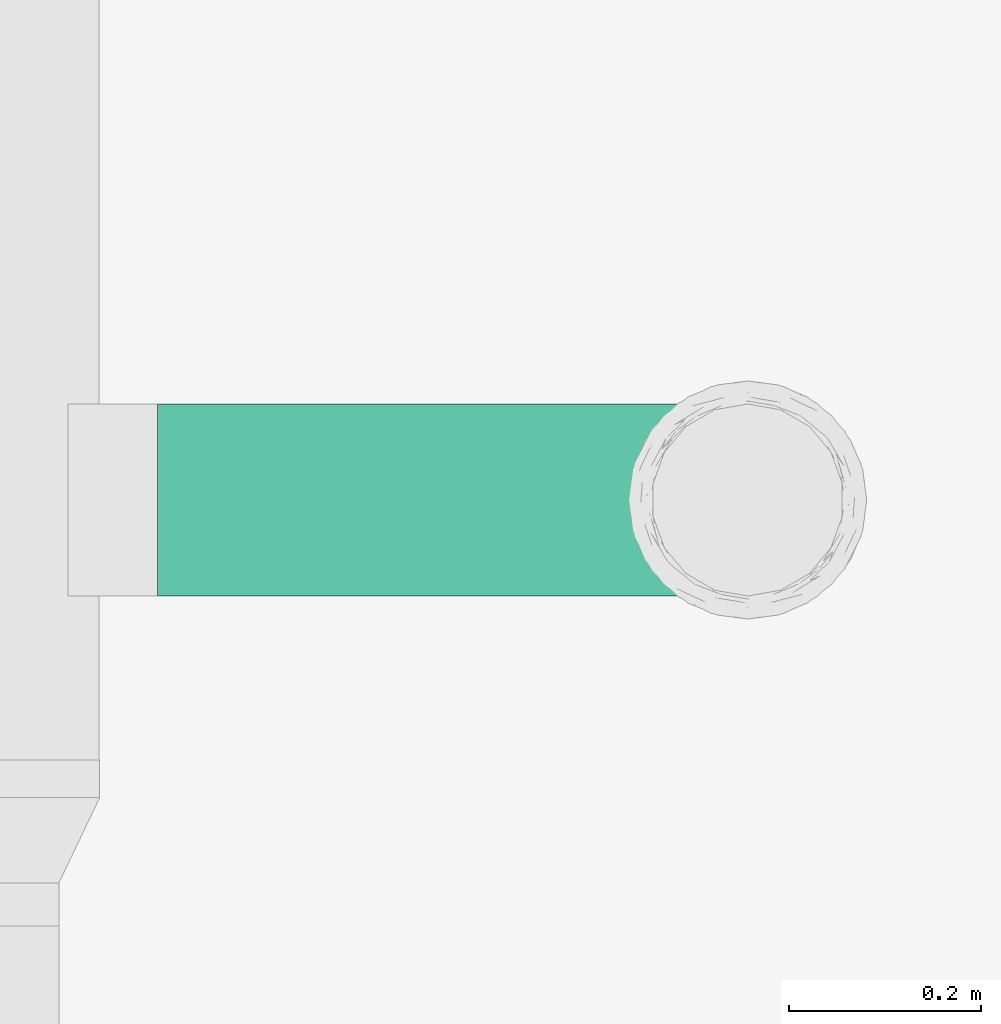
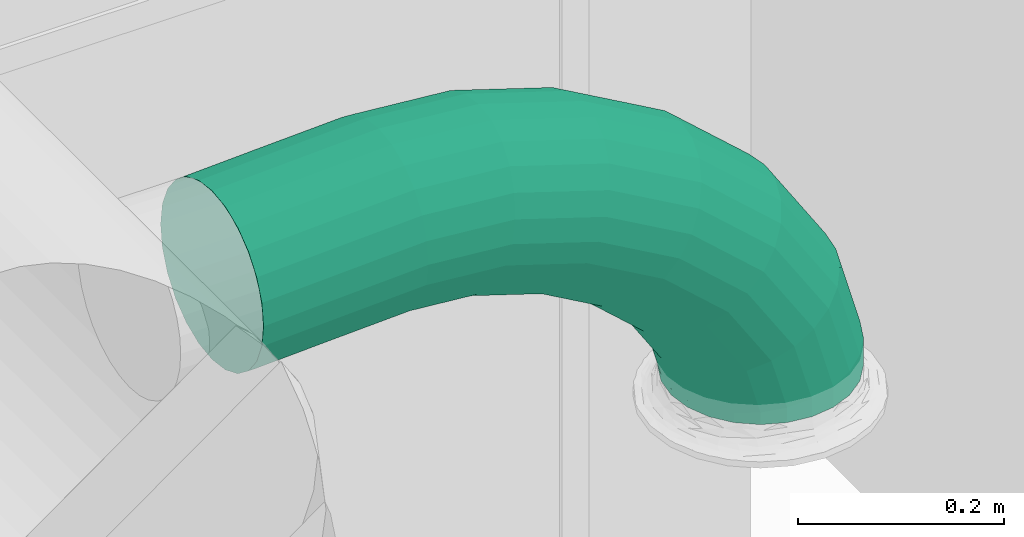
# One storey, part 23 of 31: 1 flow segment.
"""IFC2X3 building model written with IfcOpenShell, lengths in millimetres."""

from ifc_helpers import new_model, entity, si_unit, converted_unit, derived_unit, direction, frame, origin, place, context, subcontext, project, spatial, faceted_brep, type_object, element, save


model = new_model("IFC2X3")

# Units and contexts
model_context = context("Model", 3, precision=0.01, world=origin(), true_north=direction((6.123031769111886e-17, 1.0)))
body_context = subcontext(model_context, "Body", "Model", "MODEL_VIEW")
ifc_project = project(units=[si_unit("LENGTHUNIT", "METRE", prefix="MILLI"), si_unit("AREAUNIT", "SQUARE_METRE"), si_unit("VOLUMEUNIT", "CUBIC_METRE"), converted_unit("PLANEANGLEUNIT", "DEGREE", entity("IfcRatioMeasure", 0.017453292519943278), si_unit("PLANEANGLEUNIT", "RADIAN"), dimensions=[0, 0, 0, 0, 0, 0, 0]), si_unit("MASSUNIT", "GRAM", prefix="KILO"), derived_unit("MASSDENSITYUNIT", [(si_unit("MASSUNIT", "GRAM", prefix="KILO"), 1), (si_unit("LENGTHUNIT", "METRE"), -3)]), derived_unit("MOMENTOFINERTIAUNIT", [(si_unit("LENGTHUNIT", "METRE"), 4)]), si_unit("TIMEUNIT", "SECOND"), si_unit("FREQUENCYUNIT", "HERTZ"), si_unit("THERMODYNAMICTEMPERATUREUNIT", "DEGREE_CELSIUS"), derived_unit("THERMALTRANSMITTANCEUNIT", [(si_unit("MASSUNIT", "GRAM", prefix="KILO"), 1), (si_unit("THERMODYNAMICTEMPERATUREUNIT", "KELVIN"), -1), (si_unit("TIMEUNIT", "SECOND"), -3)]), derived_unit("VOLUMETRICFLOWRATEUNIT", [(si_unit("LENGTHUNIT", "METRE"), 3), (si_unit("TIMEUNIT", "SECOND"), -1)]), derived_unit("MASSFLOWRATEUNIT", [(si_unit("MASSUNIT", "GRAM", prefix="KILO"), 1), (si_unit("TIMEUNIT", "SECOND"), -1)]), derived_unit("ROTATIONALFREQUENCYUNIT", [(si_unit("TIMEUNIT", "SECOND"), -1)]), si_unit("ELECTRICCURRENTUNIT", "AMPERE"), si_unit("ELECTRICVOLTAGEUNIT", "VOLT"), si_unit("POWERUNIT", "WATT"), si_unit("FORCEUNIT", "NEWTON", prefix="KILO"), si_unit("ILLUMINANCEUNIT", "LUX"), si_unit("LUMINOUSFLUXUNIT", "LUMEN"), si_unit("LUMINOUSINTENSITYUNIT", "CANDELA"), derived_unit("USERDEFINED", [(si_unit("MASSUNIT", "GRAM", prefix="KILO"), -1), (si_unit("LENGTHUNIT", "METRE"), -2), (si_unit("TIMEUNIT", "SECOND"), 3), (si_unit("LUMINOUSFLUXUNIT", "LUMEN"), 1)]), derived_unit("SOUNDPOWERUNIT", [(si_unit("MASSUNIT", "GRAM", prefix="KILO"), 1), (si_unit("LENGTHUNIT", "METRE"), 2), (si_unit("TIMEUNIT", "SECOND"), -3)]), derived_unit("SOUNDPRESSUREUNIT", [(si_unit("MASSUNIT", "GRAM", prefix="KILO"), 1), (si_unit("LENGTHUNIT", "METRE"), -1), (si_unit("TIMEUNIT", "SECOND"), -2)]), derived_unit("LINEARVELOCITYUNIT", [(si_unit("LENGTHUNIT", "METRE"), 1), (si_unit("TIMEUNIT", "SECOND"), -1)]), si_unit("PRESSUREUNIT", "PASCAL"), derived_unit("USERDEFINED", [(si_unit("LENGTHUNIT", "METRE"), -2), (si_unit("MASSUNIT", "GRAM", prefix="KILO"), 1), (si_unit("TIMEUNIT", "SECOND"), -2)]), derived_unit("LINEARFORCEUNIT", [(si_unit("MASSUNIT", "GRAM", prefix="KILO"), 1), (si_unit("LENGTHUNIT", "METRE"), 1), (si_unit("TIMEUNIT", "SECOND"), -2), (si_unit("LENGTHUNIT", "METRE"), -1)]), derived_unit("PLANARFORCEUNIT", [(si_unit("MASSUNIT", "GRAM", prefix="KILO"), 1), (si_unit("LENGTHUNIT", "METRE"), 1), (si_unit("TIMEUNIT", "SECOND"), -2), (si_unit("LENGTHUNIT", "METRE"), -2)])], contexts=[model_context])

# Site, building, storey
site_placement = place(None, origin())
site = spatial("IfcSite", under=ifc_project, at=site_placement, Name="Default", CompositionType="ELEMENT")
building_placement = place(site_placement, origin())
building = spatial("IfcBuilding", under=site, at=building_placement, CompositionType="ELEMENT")
storey_placement = place(building_placement, frame((0.0, 0.0, 3880.0)))
storey = spatial("IfcBuildingStorey", under=building, at=storey_placement, Name="Niveau 1", CompositionType="ELEMENT", Elevation=3880.0)

# Flow segment
duct_segment_type = type_object("IfcDuctSegmentType", Name="Gaine flexible circulaire:Souple - Circulaire piquage Aldes", PredefinedType="FLEXIBLESEGMENT")
flow_segment_placement = place(storey_placement, frame((-1935.0, -16121.595272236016, 2827.5000000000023)))
element("IfcFlowSegment", 1, at=flow_segment_placement, inside=storey, type_object=duct_segment_type, Name="Gaine flexible circulaire:Souple - Circulaire piquage Aldes", ObjectType="Gaine flexible circulaire:Souple - Circulaire piquage Aldes", context=body_context, shape_type="Brep", body=[
    faceted_brep([(518.4074173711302, 75.7133677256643, 0.0), (515.0, 101.595272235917, 0.0), (518.40741737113, 127.47717674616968, 0.0), (528.3974596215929, 151.59527223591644, 0.0), (544.2893218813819, 172.3059503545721, 0.0), (565.0, 188.19781261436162, 0.0), (589.1180954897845, 198.1878548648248, 0.0), (615.0, 201.5952722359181, 0.0), (640.8819045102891, 198.1878548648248, 0.0), (665.0, 188.19781261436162, 0.0), (685.7106781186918, 172.3059503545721, 0.0), (701.6025403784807, 151.59527223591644, 0.0), (711.5925826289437, 127.47717674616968, 0.0), (715.0, 101.595272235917, 0.0), (711.5925826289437, 75.7133677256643, 0.0), (701.6025403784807, 51.59527223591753, 0.0), (685.7106781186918, 30.884594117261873, 0.0), (665.0, 14.992731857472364, 0.0), (640.8819045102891, 5.002689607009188, 0.0), (615.0, 1.5952722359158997, 0.0), (589.1180954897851, 5.002689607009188, 0.0), (565.0, 14.992731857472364, 0.0), (544.2893218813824, 30.884594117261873, 0.0), (528.3974596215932, 51.59527223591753, 0.0), (715.0, 101.595272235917, 35.193251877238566), (711.5925826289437, 75.7133677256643, 34.71788220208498), (701.6025403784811, 51.59527223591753, 33.3241688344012), (685.7106781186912, 30.884594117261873, 31.10709103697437), (665.0, 14.992731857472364, 28.217738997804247), (640.8819045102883, 5.002689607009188, 24.85301728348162), (615.0, 1.5952722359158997, 21.242226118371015), (589.1180954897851, 5.002689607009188, 17.631434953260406), (565.0, 14.992731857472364, 14.266713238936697), (544.2893218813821, 30.884594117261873, 11.377361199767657), (518.4074173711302, 75.7133677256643, 7.76657003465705), (515.0, 101.595272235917, 7.291200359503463), (528.3974596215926, 51.59527223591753, 9.160283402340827), (528.3974596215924, 151.59527223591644, 9.160283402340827), (544.2893218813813, 172.30595035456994, 11.377361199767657), (518.40741737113, 127.47717674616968, 7.76657003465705), (589.118095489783, 198.1878548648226, 17.631434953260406), (615.0, 201.5952722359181, 21.242226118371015), (565.0, 188.19781261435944, 14.266713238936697), (640.881904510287, 198.1878548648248, 24.85301728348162), (665.0, 188.19781261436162, 28.217738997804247), (685.7106781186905, 172.3059503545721, 31.10709103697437), (701.6025403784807, 151.59527223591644, 33.3241688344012), (711.5925826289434, 127.47717674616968, 34.71788220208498), (0.0, 188.19781261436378, 272.4999999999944), (0.0, 172.30595035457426, 251.7893218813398), (0.0, 151.59527223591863, 235.89745962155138), (0.0, 127.47717674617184, 225.90741737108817), (0.0, 101.59527223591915, 222.49999999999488), (0.0, 75.71336772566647, 225.90741737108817), (0.0, 51.595272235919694, 235.89745962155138), (0.0, 30.88459411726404, 251.7893218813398), (0.0, 14.992731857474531, 272.4999999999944), (0.0, 5.002689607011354, 296.6180954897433), (0.0, 1.5952722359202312, 322.4999999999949), (0.0, 5.002689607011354, 348.3819045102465), (0.0, 14.992731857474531, 372.4999999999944), (0.0, 30.88459411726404, 393.21067811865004), (0.0, 51.595272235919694, 409.10254037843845), (0.0, 75.71336772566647, 419.0925826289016), (0.0, 101.59527223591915, 422.4999999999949), (0.0, 127.47717674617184, 419.0925826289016), (0.0, 151.59527223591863, 409.10254037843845), (0.0, 172.30595035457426, 393.21067811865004), (0.0, 188.19781261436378, 372.49999999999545), (0.0, 198.18785486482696, 348.3819045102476), (0.0, 201.5952722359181, 322.4999999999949), (0.0, 198.18785486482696, 296.61809548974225), (687.5250389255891, 101.595272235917, 131.74605486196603), (684.3872886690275, 75.7133677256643, 130.32301811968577), (675.1878703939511, 51.59527223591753, 126.15088549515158), (660.5537092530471, 30.884594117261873, 119.51398093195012), (641.4820991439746, 14.992731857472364, 110.8645985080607), (619.2727387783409, 5.002689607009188, 100.79217934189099), (595.4391593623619, 1.5952722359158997, 89.98314215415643), (571.605579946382, 5.002689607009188, 79.17410496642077), (549.396219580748, 14.992731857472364, 69.10168580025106), (530.3246094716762, 30.884594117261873, 60.45230337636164), (515.6904483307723, 51.59527223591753, 53.81539881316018), (506.49103005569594, 75.7133677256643, 49.643266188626), (503.3532797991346, 101.595272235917, 48.22022944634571), (506.49103005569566, 127.47717674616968, 49.643266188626), (515.690448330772, 151.59527223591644, 53.81539881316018), (530.3246094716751, 172.3059503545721, 60.45230337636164), (571.6055799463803, 198.1878548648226, 79.17410496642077), (595.4391593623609, 201.5952722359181, 89.98314215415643), (549.3962195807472, 188.19781261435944, 69.10168580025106), (619.2727387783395, 198.1878548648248, 100.79217934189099), (641.482099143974, 188.19781261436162, 110.8645985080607), (660.5537092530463, 172.3059503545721, 119.51398093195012), (675.1878703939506, 151.59527223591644, 126.15088549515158), (684.3872886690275, 127.47717674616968, 130.32301811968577), (619.5778806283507, 101.595272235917, 236.7504979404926), (616.9645695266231, 75.7133677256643, 234.5170013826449), (609.3027290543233, 51.59527223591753, 227.96872080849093), (597.1145009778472, 30.884594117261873, 217.5519107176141), (581.2304928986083, 14.992731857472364, 203.97645950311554), (562.7331737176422, 5.002689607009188, 188.16751173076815), (542.8831051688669, 1.5952722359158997, 171.20242106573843), (523.0330366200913, 5.002689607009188, 154.23733040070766), (504.5357174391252, 14.992731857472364, 138.42838262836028), (488.6517093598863, 30.884594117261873, 124.8529314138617), (476.46348128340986, 51.59527223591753, 114.43612132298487), (468.80164081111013, 75.7133677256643, 107.8878407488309), (466.1883297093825, 101.595272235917, 105.65434419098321), (468.80164081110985, 127.47717674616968, 107.8878407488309), (476.46348128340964, 151.59527223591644, 114.43612132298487), (488.65170935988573, 172.3059503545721, 124.8529314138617), (523.0330366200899, 198.1878548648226, 154.23733040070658), (542.8831051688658, 201.5952722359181, 171.20242106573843), (504.5357174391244, 188.19781261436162, 138.42838262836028), (562.7331737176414, 198.1878548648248, 188.16751173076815), (581.2304928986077, 188.19781261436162, 203.97645950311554), (597.114500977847, 172.3059503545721, 217.55191071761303), (609.3027290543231, 151.59527223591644, 227.96872080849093), (616.9645695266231, 127.47717674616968, 234.5170013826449), (525.246890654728, 101.595272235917, 321.29368666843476), (523.2458728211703, 75.7133677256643, 318.51142850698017), (517.3791853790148, 51.59527223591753, 310.3542603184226), (508.04663338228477, 30.884594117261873, 297.378079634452), (495.8842148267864, 14.992731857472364, 280.46719172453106), (481.72077843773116, 5.002689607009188, 260.77404565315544), (466.52153899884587, 1.5952722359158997, 239.6406967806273), (451.3222995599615, 5.002689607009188, 218.50734790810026), (437.15886317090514, 14.992731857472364, 198.81420183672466), (424.99644461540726, 30.884594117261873, 181.90331392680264), (415.6638926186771, 51.59527223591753, 168.92713324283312), (409.7972051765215, 75.7133677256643, 160.7699650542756), (407.79618734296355, 101.595272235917, 157.98770689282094), (409.79720517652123, 127.47717674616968, 160.7699650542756), (415.6638926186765, 151.59527223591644, 168.92713324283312), (424.99644461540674, 172.3059503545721, 181.90331392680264), (451.32229955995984, 198.1878548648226, 218.5073479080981), (466.5215389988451, 201.5952722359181, 239.6406967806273), (437.1588631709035, 188.19781261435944, 198.8142018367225), (481.7207784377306, 198.1878548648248, 260.77404565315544), (495.88421482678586, 188.19781261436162, 280.4671917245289), (508.04663338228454, 172.3059503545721, 297.378079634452), (517.3791853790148, 151.59527223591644, 310.3542603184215), (523.24587282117, 127.47717674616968, 318.51142850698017), (415.88363742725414, 101.595272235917, 383.36992042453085), (414.5091031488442, 75.7133677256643, 380.2320607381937), (410.4791725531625, 51.59527223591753, 371.03232163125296), (404.06847875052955, 30.884594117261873, 356.39765012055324), (395.71389992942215, 14.992731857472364, 337.3253748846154), (385.98478682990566, 5.002689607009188, 315.1152399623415), (375.54416243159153, 1.5952722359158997, 291.2808293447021), (365.10353803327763, 5.002689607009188, 267.44641872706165), (355.3744249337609, 14.992731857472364, 245.23628380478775), (347.0198461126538, 30.884594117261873, 226.1640085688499), (340.6091523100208, 51.59527223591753, 211.52933705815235), (336.5792217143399, 75.7133677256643, 202.32959795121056), (335.2046874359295, 101.595272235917, 199.19173826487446), (336.57922171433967, 127.47717674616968, 202.32959795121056), (340.6091523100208, 151.59527223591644, 211.52933705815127), (347.0198461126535, 172.30595035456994, 226.1640085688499), (365.1035380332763, 198.1878548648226, 267.4464187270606), (375.54416243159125, 201.5952722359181, 291.2808293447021), (355.37442493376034, 188.19781261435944, 245.23628380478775), (385.98478682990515, 198.1878548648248, 315.1152399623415), (395.71389992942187, 188.19781261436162, 337.32537488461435), (404.06847875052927, 172.3059503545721, 356.39765012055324), (410.4791725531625, 151.59527223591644, 371.0323216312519), (414.5091031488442, 127.47717674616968, 380.2320607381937), (299.134859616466, 101.595272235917, 420.70014231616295), (298.4535743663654, 75.7133677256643, 417.3406174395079), (296.4561470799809, 51.59527223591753, 407.4909888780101), (293.2786991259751, 30.884594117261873, 391.82249254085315), (289.1377683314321, 14.992731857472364, 371.4029105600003), (284.31555228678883, 5.002689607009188, 347.6238037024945), (279.14067704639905, 1.5952722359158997, 322.1056788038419), (273.9658018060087, 5.002689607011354, 296.58755390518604), (269.1435857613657, 14.992731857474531, 272.8084470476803), (265.002654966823, 30.884594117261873, 252.38886506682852), (261.8252070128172, 51.59527223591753, 236.72036872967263), (259.82777972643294, 75.7133677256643, 226.87074016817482), (259.1464944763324, 101.595272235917, 223.5112152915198), (259.82777972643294, 127.47717674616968, 226.87074016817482), (261.8252070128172, 151.59527223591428, 236.72036872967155), (265.0026549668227, 172.30595035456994, 252.38886506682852), (273.9658018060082, 198.1878548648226, 296.5875539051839), (279.1406770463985, 201.5952722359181, 322.10567880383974), (269.14358576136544, 188.19781261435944, 272.80844704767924), (284.31555228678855, 198.1878548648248, 347.62380370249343), (289.1377683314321, 188.19781261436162, 371.4029105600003), (293.2786991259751, 172.30595035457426, 391.82249254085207), (296.4561470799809, 151.59527223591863, 407.4909888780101), (298.45357436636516, 127.47717674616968, 417.3406174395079), (187.10028923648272, 101.595272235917, 430.8877292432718), (187.02026932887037, 75.7133677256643, 427.4735297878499), (186.785662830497, 51.59527223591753, 417.46360347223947), (186.41245778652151, 30.884594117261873, 401.5401102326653), (185.92608750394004, 14.992731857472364, 380.78820981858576), (185.3596973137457, 5.002689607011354, 356.6221099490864), (184.7518857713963, 1.5952722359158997, 330.6886903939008), (184.1440742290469, 5.002689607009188, 304.7552708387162), (183.57768403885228, 14.992731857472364, 280.5891709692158), (183.09131375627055, 30.884594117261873, 259.8372705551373), (182.7181087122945, 51.59527223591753, 243.9137773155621), (182.4835022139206, 75.7133677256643, 233.90385099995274), (182.40348230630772, 101.595272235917, 230.48965154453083), (182.48350221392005, 127.47717674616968, 233.90385099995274), (182.71810871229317, 151.59527223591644, 243.9137773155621), (183.0913137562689, 172.3059503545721, 259.83727055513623), (184.14407422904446, 198.1878548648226, 304.75527083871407), (184.75188577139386, 201.5952722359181, 330.6886903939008), (183.57768403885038, 188.19781261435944, 280.5891709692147), (185.35969731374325, 198.1878548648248, 356.62210994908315), (185.92608750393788, 188.19781261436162, 380.7882098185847), (186.4124577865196, 172.3059503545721, 401.54011023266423), (186.78566283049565, 151.59527223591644, 417.46360347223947), (187.02026932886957, 127.47717674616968, 427.4735297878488), (87.82735397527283, 101.595272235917, 426.5351066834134), (87.98210633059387, 75.7133677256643, 423.13120081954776), (88.43581727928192, 51.59527223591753, 413.15145378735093), (89.15756716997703, 30.884594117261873, 397.2759688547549), (90.09816994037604, 14.992731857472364, 376.5866340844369), (91.19352506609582, 5.002689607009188, 352.49339345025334), (92.36898590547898, 1.5952722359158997, 326.6381614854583), (93.54444674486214, 5.002689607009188, 300.78292952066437), (94.63980187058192, 14.992731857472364, 276.68968888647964), (95.58040464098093, 30.884594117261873, 256.0003541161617), (96.30215453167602, 51.59527223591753, 240.1248691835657), (96.7558654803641, 75.7133677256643, 230.14512215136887), (96.91061783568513, 101.59527223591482, 226.7412162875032), (96.7558654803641, 127.47717674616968, 230.14512215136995), (96.30215453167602, 151.59527223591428, 240.12486918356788), (95.58040464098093, 172.30595035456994, 256.00035411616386), (93.54444674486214, 198.18785486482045, 300.78292952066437), (92.36898590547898, 201.59527223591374, 326.6381614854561), (94.63980187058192, 188.19781261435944, 276.6896888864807), (91.19352506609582, 198.1878548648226, 352.4933934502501), (90.09816994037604, 188.19781261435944, 376.5866340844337), (89.15756716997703, 172.3059503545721, 397.2759688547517), (88.43581727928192, 151.59527223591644, 413.15145378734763), (87.98210633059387, 127.47717674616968, 423.1312008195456), (2.202937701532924, 75.71336772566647, 419.0925826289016), (2.437980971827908, 51.595272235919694, 409.1025403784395), (2.1227688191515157, 101.59527223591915, 422.4999999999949), (2.811880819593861, 30.88459411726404, 393.21067811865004), (3.866601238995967, 5.002689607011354, 348.3819045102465), (4.475544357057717, 1.5952722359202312, 322.49999999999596), (3.29915658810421, 14.992731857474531, 372.4999999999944), (5.084487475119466, 5.002689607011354, 296.6180954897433), (5.651932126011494, 14.992731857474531, 272.4999999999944), (6.139207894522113, 30.88459411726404, 251.7893218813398), (6.513107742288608, 51.595272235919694, 235.89745962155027), (6.748151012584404, 75.71336772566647, 225.90741737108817), (6.828319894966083, 101.59527223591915, 222.49999999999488), (6.7481510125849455, 127.47717674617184, 225.90741737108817), (6.513107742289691, 151.59527223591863, 235.89745962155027), (6.139207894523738, 172.30595035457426, 251.7893218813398), (5.6519321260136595, 188.19781261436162, 272.4999999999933), (5.084487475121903, 198.1878548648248, 296.6180954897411), (4.475544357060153, 201.5952722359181, 322.4999999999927), (3.8666012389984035, 198.18785486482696, 348.3819045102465), (3.2991565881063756, 188.19781261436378, 372.4999999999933), (2.8118808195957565, 172.30595035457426, 393.21067811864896), (2.4379809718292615, 151.59527223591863, 409.10254037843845), (2.2029377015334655, 127.47717674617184, 419.0925826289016)], [[[0, 1, 2, 3, 4, 5, 6, 7, 8, 9, 10, 11, 12, 13, 14, 15, 16, 17, 18, 19, 20, 21, 22, 23]], [[13, 24, 25, 14]], [[14, 25, 26, 15]], [[15, 26, 27, 16]], [[17, 28, 29, 18]], [[18, 29, 30, 19]], [[16, 27, 28, 17]], [[31, 32, 21, 20]], [[30, 31, 20, 19]], [[21, 32, 33, 22]], [[34, 35, 1, 0]], [[36, 34, 0, 23]], [[22, 33, 36, 23]], [[3, 37, 38, 4]], [[39, 37, 3, 2]], [[1, 35, 39, 2]], [[40, 41, 7, 6]], [[42, 40, 6, 5]], [[38, 42, 5, 4]], [[9, 8, 43, 44]], [[10, 9, 44, 45]], [[7, 41, 43, 8]], [[12, 11, 46, 47]], [[13, 12, 47, 24]], [[45, 46, 11, 10]], [[48, 49, 50, 51, 52, 53, 54, 55, 56, 57, 58, 59, 60, 61, 62, 63, 64, 65, 66, 67, 68, 69, 70, 71]], [[24, 72, 73, 25]], [[25, 73, 74, 26]], [[26, 74, 75, 27]], [[27, 75, 76, 28]], [[28, 76, 77, 29]], [[78, 30, 29, 77]], [[79, 80, 32, 31]], [[78, 79, 31, 30]], [[81, 33, 32, 80]], [[82, 83, 34, 36]], [[82, 36, 33, 81]], [[84, 35, 34, 83]], [[85, 86, 37, 39]], [[84, 85, 39, 35]], [[38, 37, 86, 87]], [[88, 89, 41, 40]], [[90, 88, 40, 42]], [[87, 90, 42, 38]], [[43, 41, 89, 91]], [[44, 43, 91, 92]], [[45, 44, 92, 93]], [[47, 46, 94, 95]], [[24, 47, 95, 72]], [[93, 94, 46, 45]], [[73, 72, 96, 97]], [[74, 73, 97, 98]], [[98, 99, 75, 74]], [[76, 75, 99, 100]], [[77, 76, 100, 101]], [[78, 77, 101, 102]], [[103, 104, 80, 79]], [[102, 103, 79, 78]], [[81, 80, 104, 105]], [[106, 107, 83, 82]], [[105, 106, 82, 81]], [[84, 83, 107, 108]], [[109, 110, 86, 85]], [[108, 109, 85, 84]], [[111, 87, 86, 110]], [[112, 113, 89, 88]], [[114, 112, 88, 90]], [[114, 90, 87, 111]], [[89, 113, 115, 91]], [[91, 115, 116, 92]], [[117, 93, 92, 116]], [[94, 118, 119, 95]], [[95, 119, 96, 72]], [[118, 94, 93, 117]], [[97, 96, 120, 121]], [[98, 97, 121, 122]], [[122, 123, 99, 98]], [[100, 99, 123, 124]], [[101, 100, 124, 125]], [[102, 101, 125, 126]], [[127, 128, 104, 103]], [[126, 127, 103, 102]], [[105, 104, 128, 129]], [[130, 131, 107, 106]], [[129, 130, 106, 105]], [[108, 107, 131, 132]], [[133, 134, 110, 109]], [[132, 133, 109, 108]], [[135, 111, 110, 134]], [[136, 137, 113, 112]], [[138, 136, 112, 114]], [[138, 114, 111, 135]], [[113, 137, 139, 115]], [[115, 139, 140, 116]], [[141, 117, 116, 140]], [[118, 142, 143, 119]], [[119, 143, 120, 96]], [[142, 118, 117, 141]], [[121, 120, 144, 145]], [[122, 121, 145, 146]], [[146, 147, 123, 122]], [[124, 123, 147, 148]], [[125, 124, 148, 149]], [[126, 125, 149, 150]], [[151, 152, 128, 127]], [[150, 151, 127, 126]], [[129, 128, 152, 153]], [[154, 155, 131, 130]], [[153, 154, 130, 129]], [[132, 131, 155, 156]], [[157, 158, 134, 133]], [[156, 157, 133, 132]], [[159, 135, 134, 158]], [[160, 161, 137, 136]], [[162, 160, 136, 138]], [[162, 138, 135, 159]], [[137, 161, 163, 139]], [[139, 163, 164, 140]], [[165, 141, 140, 164]], [[142, 166, 167, 143]], [[143, 167, 144, 120]], [[166, 142, 141, 165]], [[144, 168, 169, 145]], [[145, 169, 170, 146]], [[146, 170, 171, 147]], [[147, 171, 172, 148]], [[148, 172, 173, 149]], [[174, 150, 149, 173]], [[175, 176, 152, 151]], [[174, 175, 151, 150]], [[177, 153, 152, 176]], [[178, 179, 155, 154]], [[178, 154, 153, 177]], [[180, 156, 155, 179]], [[181, 182, 158, 157]], [[180, 181, 157, 156]], [[159, 158, 182, 183]], [[184, 185, 161, 160]], [[186, 184, 160, 162]], [[183, 186, 162, 159]], [[163, 161, 185, 187]], [[164, 163, 187, 188]], [[165, 164, 188, 189]], [[167, 166, 190, 191]], [[144, 167, 191, 168]], [[189, 190, 166, 165]], [[169, 168, 192, 193]], [[170, 169, 193, 194]], [[194, 195, 171, 170]], [[172, 171, 195, 196]], [[173, 172, 196, 197]], [[174, 173, 197, 198]], [[199, 200, 176, 175]], [[198, 199, 175, 174]], [[177, 176, 200, 201]], [[202, 203, 179, 178]], [[201, 202, 178, 177]], [[180, 179, 203, 204]], [[205, 206, 182, 181]], [[204, 205, 181, 180]], [[207, 183, 182, 206]], [[208, 209, 185, 184]], [[210, 208, 184, 186]], [[210, 186, 183, 207]], [[185, 209, 211, 187]], [[187, 211, 212, 188]], [[213, 189, 188, 212]], [[190, 214, 215, 191]], [[191, 215, 192, 168]], [[214, 190, 189, 213]], [[193, 192, 216, 217]], [[194, 193, 217, 218]], [[218, 219, 195, 194]], [[196, 195, 219, 220]], [[197, 196, 220, 221]], [[198, 197, 221, 222]], [[223, 224, 200, 199]], [[222, 223, 199, 198]], [[201, 200, 224, 225]], [[226, 227, 203, 202]], [[225, 226, 202, 201]], [[204, 203, 227, 228]], [[229, 230, 206, 205]], [[228, 229, 205, 204]], [[231, 207, 206, 230]], [[232, 233, 209, 208]], [[234, 232, 208, 210]], [[234, 210, 207, 231]], [[209, 233, 235, 211]], [[211, 235, 236, 212]], [[237, 213, 212, 236]], [[214, 238, 239, 215]], [[215, 239, 216, 192]], [[238, 214, 213, 237]], [[240, 241, 218, 217]], [[242, 240, 217, 216]], [[241, 243, 219, 218]], [[244, 245, 222, 221]], [[246, 244, 221, 220]], [[243, 246, 220, 219]], [[223, 222, 245, 247]], [[224, 223, 247, 248]], [[225, 224, 248, 249]], [[227, 226, 250, 251]], [[228, 227, 251, 252]], [[249, 250, 226, 225]], [[228, 252, 253, 229]], [[229, 253, 254, 230]], [[255, 231, 230, 254]], [[231, 255, 256, 234]], [[234, 256, 257, 232]], [[258, 233, 232, 257]], [[259, 260, 236, 235]], [[258, 259, 235, 233]], [[261, 237, 236, 260]], [[262, 263, 239, 238]], [[262, 238, 237, 261]], [[242, 216, 239, 263]], [[242, 64, 63, 240]], [[240, 63, 62, 241]], [[241, 62, 61, 243]], [[246, 60, 59, 244]], [[244, 59, 58, 245]], [[246, 243, 61, 60]], [[245, 58, 57, 247]], [[247, 57, 56, 248]], [[248, 56, 55, 249]], [[250, 54, 53, 251]], [[251, 53, 52, 252]], [[249, 55, 54, 250]], [[253, 252, 52, 51]], [[254, 253, 51, 50]], [[255, 254, 50, 49]], [[257, 256, 48, 71]], [[258, 257, 71, 70]], [[49, 48, 256, 255]], [[259, 258, 70, 69]], [[260, 259, 69, 68]], [[261, 260, 68, 67]], [[263, 262, 66, 65]], [[242, 263, 65, 64]], [[261, 67, 66, 262]]]),
])

save(model, "model.ifc")
